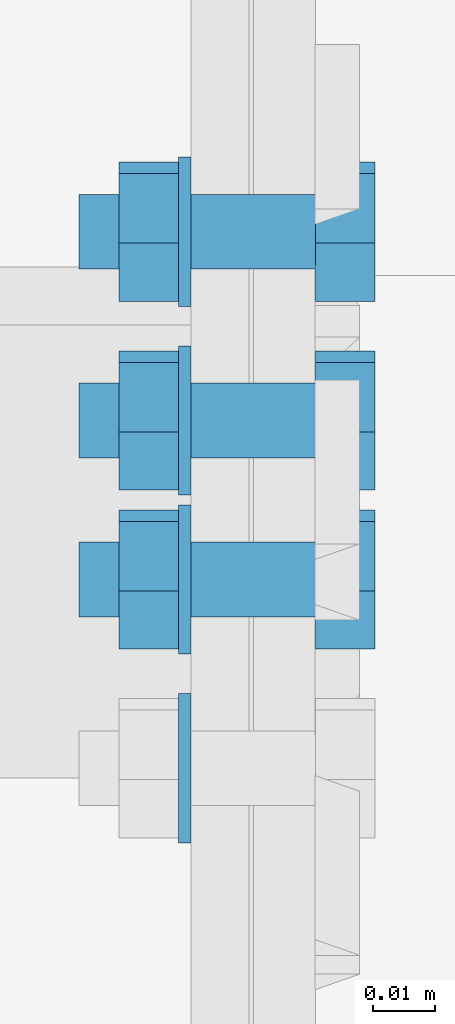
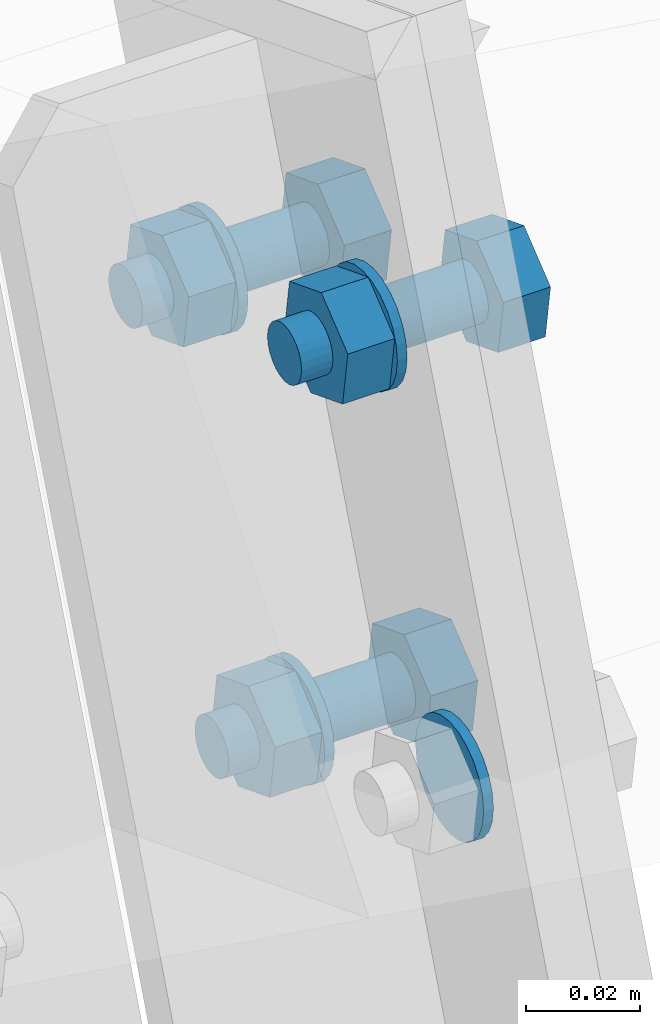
# One storey, part 58 of 72: 13 mechanical fasteners.
"""IFC4 building model written with IfcOpenShell, lengths in metres."""

from ifc_helpers import new_model, si_unit, frame, origin_with_axes, place, context, project, spatial, polyline, outline, extrude, type_object, element, save


model = new_model("IFC4")

# Units and contexts
model_context = context("Model", 3, precision=1e-05, world=origin_with_axes())
ifc_project = project(units=[si_unit("LENGTHUNIT", "METRE"), si_unit("AREAUNIT", "SQUARE_METRE"), si_unit("VOLUMEUNIT", "CUBIC_METRE"), si_unit("MASSUNIT", "GRAM", prefix="KILO"), si_unit("TIMEUNIT", "SECOND"), si_unit("PLANEANGLEUNIT", "RADIAN"), si_unit("SOLIDANGLEUNIT", "STERADIAN"), si_unit("THERMODYNAMICTEMPERATUREUNIT", "DEGREE_CELSIUS")], contexts=[model_context])

# Site, building, storey
placement_1 = place(None, origin_with_axes())
site = spatial("IfcSite", under=ifc_project, at=placement_1, Name="Italia", CompositionType="ELEMENT")
building = spatial("IfcBuilding", under=site, at=placement_1, Name="Uffici", CompositionType="ELEMENT")
storey = spatial("IfcBuildingStorey", under=building, at=placement_1, Name="Storey 0", CompositionType="ELEMENT", Elevation=0.0)

# Mechanical fasteners
mechanical_fastener_type_1 = type_object("IfcMechanicalFastenerType", Name="Collegamento -019_-020", PredefinedType="BOLT")
placement_2 = place(placement_1, origin_with_axes())
mechanical_fastener_1_placement = place(placement_2, origin_with_axes())
element("IfcMechanicalFastener", 1, at=mechanical_fastener_1_placement, inside=storey, type_object=mechanical_fastener_type_1, Name="Collegamento -019_-020", NominalDiameter=0.024, context=model_context, shape_type="SweptSolid", body=[
    extrude(outline(polyline([(0.0, 0.0), (-0.000408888, -0.00310564), (-0.00160789, -0.00600004), (-0.00351477, -0.00848532), (-0.00600004, -0.0103922), (-0.00889421, -0.011591), (-0.0120001, -0.0120001), (-0.015106, -0.011591), (-0.0180001, -0.0103922), (-0.0204854, -0.00848532), (-0.0223923, -0.00600004), (-0.0235913, -0.00310564), (-0.0240002, 0.0), (-0.0235913, 0.00310564), (-0.0223923, 0.00600004), (-0.0204854, 0.00848532), (-0.0180001, 0.0103922), (-0.015106, 0.011591), (-0.0120001, 0.0120001), (-0.00889421, 0.011591), (-0.00600004, 0.0103922), (-0.00351477, 0.00848532), (-0.00160789, 0.00600004), (-0.000408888, 0.00310564), (0.0, 0.0)])), frame((9.508, 3.19937, 5.85178), z_axis=(1.0, 0.0, 0.0), x_axis=(0.0, 1.0, 0.0)), (0.0, 0.0, 1.0), 0.00199986),
])
mechanical_fastener_type_2 = type_object("IfcMechanicalFastenerType", Name="Collegamento -019_-020", PredefinedType="BOLT")
mechanical_fastener_2_placement = place(placement_2, origin_with_axes())
element("IfcMechanicalFastener", 2, at=mechanical_fastener_2_placement, inside=storey, type_object=mechanical_fastener_type_2, Name="Collegamento -019_-020", NominalDiameter=0.0119999, context=model_context, shape_type="SweptSolid", body=[
    extrude(outline(polyline([(0.0, 0.0), (-0.0111887, 0.00433731), (-0.0130265, 0.0161958), (-0.00367594, 0.0237169), (0.00751281, 0.0193791), (0.00935078, 0.00752068), (0.0, 0.0)])), frame((9.53, 3.24515, 5.81823), z_axis=(1.0, 0.0, 0.0), x_axis=(0.0, 1.0, 0.0)), (0.0, 0.0, 1.0), 0.00959969),
])
mechanical_fastener_type_3 = type_object("IfcMechanicalFastenerType", Name="Collegamento -019_-020", PredefinedType="BOLT")
mechanical_fastener_3_placement = place(placement_2, origin_with_axes())
element("IfcMechanicalFastener", 3, at=mechanical_fastener_3_placement, inside=storey, type_object=mechanical_fastener_type_3, Name="Collegamento -019_-020", NominalDiameter=0.012, context=model_context, shape_type="SweptSolid", body=[
    extrude(outline(polyline([(0.0, 0.0), (-0.000204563, -0.00155306), (-0.000803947, -0.00299978), (-0.00175738, -0.00424242), (-0.00300002, -0.00519609), (-0.00444722, -0.00579548), (-0.00600004, -0.00600004), (-0.00755286, -0.00579548), (-0.00900006, -0.00519609), (-0.0102427, -0.00424242), (-0.0111961, -0.00299978), (-0.0117955, -0.00155306), (-0.0120001, 0.0), (-0.0117955, 0.00155306), (-0.0111961, 0.00299978), (-0.0102427, 0.00424242), (-0.00900006, 0.00519609), (-0.00755286, 0.00579548), (-0.00600004, 0.00600004), (-0.00444722, 0.00579548), (-0.00300002, 0.00519609), (-0.00175738, 0.00424242), (-0.000803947, 0.00299978), (-0.000204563, 0.00155306), (0.0, 0.0)])), frame((9.492, 3.24931, 5.83009), z_axis=(1.0, 0.0, 0.0), x_axis=(0.0, 1.0, 0.0)), (0.0, 0.0, 1.0), 0.0380001),
])
mechanical_fastener_type_4 = type_object("IfcMechanicalFastenerType", Name="Collegamento -019_-020", PredefinedType="BOLT")
mechanical_fastener_4_placement = place(placement_2, origin_with_axes())
element("IfcMechanicalFastener", 4, at=mechanical_fastener_4_placement, inside=storey, type_object=mechanical_fastener_type_4, Name="Collegamento -019_-020", NominalDiameter=0.0119999, context=model_context, shape_type="SweptSolid", body=[
    extrude(outline(polyline([(0.0, 0.0), (-0.0111887, 0.00433731), (-0.0130265, 0.0161958), (-0.00367594, 0.0237169), (0.00751281, 0.0193791), (0.00935078, 0.00752068), (0.0, 0.0)])), frame((9.4984, 3.24515, 5.81823), z_axis=(1.0, 0.0, 0.0), x_axis=(0.0, 1.0, 0.0)), (0.0, 0.0, 1.0), 0.00959969),
])
mechanical_fastener_type_5 = type_object("IfcMechanicalFastenerType", Name="Collegamento -019_-020", PredefinedType="BOLT")
mechanical_fastener_5_placement = place(placement_2, origin_with_axes())
element("IfcMechanicalFastener", 5, at=mechanical_fastener_5_placement, inside=storey, type_object=mechanical_fastener_type_5, Name="Collegamento -019_-020", NominalDiameter=0.024, context=model_context, shape_type="SweptSolid", body=[
    extrude(outline(polyline([(0.0, 0.0), (-0.000408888, -0.00310564), (-0.00160789, -0.00600004), (-0.00351477, -0.00848532), (-0.00600004, -0.0103922), (-0.00889421, -0.011591), (-0.0120001, -0.0120001), (-0.015106, -0.011591), (-0.0180001, -0.0103922), (-0.0204854, -0.00848532), (-0.0223923, -0.00600004), (-0.0235913, -0.00310564), (-0.0240002, 0.0), (-0.0235913, 0.00310564), (-0.0223923, 0.00600004), (-0.0204854, 0.00848532), (-0.0180001, 0.0103922), (-0.015106, 0.011591), (-0.0120001, 0.0120001), (-0.00889421, 0.011591), (-0.00600004, 0.0103922), (-0.00351477, 0.00848532), (-0.00160789, 0.00600004), (-0.000408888, 0.00310564), (0.0, 0.0)])), frame((9.508, 3.25531, 5.83009), z_axis=(1.0, 0.0, 0.0), x_axis=(0.0, 1.0, 0.0)), (0.0, 0.0, 1.0), 0.00199986),
])
mechanical_fastener_type_6 = type_object("IfcMechanicalFastenerType", Name="Collegamento -019_-020", PredefinedType="BOLT")
mechanical_fastener_6_placement = place(placement_2, origin_with_axes())
element("IfcMechanicalFastener", 6, at=mechanical_fastener_6_placement, inside=storey, type_object=mechanical_fastener_type_6, Name="Collegamento -019_-020", NominalDiameter=0.0119999, context=model_context, shape_type="SweptSolid", body=[
    extrude(outline(polyline([(0.0, 0.0), (-0.0111887, 0.00433779), (-0.0130267, 0.0161963), (-0.00367594, 0.0237169), (0.00751281, 0.0193796), (0.00935054, 0.00752115), (0.0, 0.0)])), frame((9.53, 3.21957, 5.91824), z_axis=(1.0, 0.0, 0.0), x_axis=(0.0, 1.0, 0.0)), (0.0, 0.0, 1.0), 0.00959969),
])
mechanical_fastener_type_7 = type_object("IfcMechanicalFastenerType", Name="Collegamento -019_-020", PredefinedType="BOLT")
mechanical_fastener_7_placement = place(placement_2, origin_with_axes())
element("IfcMechanicalFastener", 7, at=mechanical_fastener_7_placement, inside=storey, type_object=mechanical_fastener_type_7, Name="Collegamento -019_-020", NominalDiameter=0.012, context=model_context, shape_type="SweptSolid", body=[
    extrude(outline(polyline([(0.0, 0.0), (-0.000204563, -0.00155306), (-0.000803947, -0.00299978), (-0.00175738, -0.00424242), (-0.00300002, -0.00519609), (-0.00444722, -0.00579548), (-0.00600004, -0.00600004), (-0.00755286, -0.00579548), (-0.00900006, -0.00519609), (-0.0102427, -0.00424242), (-0.0111961, -0.00299978), (-0.0117955, -0.00155306), (-0.0120001, 0.0), (-0.0117955, 0.00155306), (-0.0111961, 0.00299978), (-0.0102427, 0.00424242), (-0.00900006, 0.00519609), (-0.00755286, 0.00579548), (-0.00600004, 0.00600004), (-0.00444722, 0.00579548), (-0.00300002, 0.00519609), (-0.00175738, 0.00424242), (-0.000803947, 0.00299978), (-0.000204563, 0.00155306), (0.0, 0.0)])), frame((9.492, 3.22373, 5.9301), z_axis=(1.0, 0.0, 0.0), x_axis=(0.0, 1.0, 0.0)), (0.0, 0.0, 1.0), 0.0380001),
])
mechanical_fastener_type_8 = type_object("IfcMechanicalFastenerType", Name="Collegamento -019_-020", PredefinedType="BOLT")
mechanical_fastener_8_placement = place(placement_2, origin_with_axes())
element("IfcMechanicalFastener", 8, at=mechanical_fastener_8_placement, inside=storey, type_object=mechanical_fastener_type_8, Name="Collegamento -019_-020", NominalDiameter=0.0119999, context=model_context, shape_type="SweptSolid", body=[
    extrude(outline(polyline([(0.0, 0.0), (-0.0111887, 0.00433779), (-0.0130267, 0.0161963), (-0.00367594, 0.0237169), (0.00751281, 0.0193796), (0.00935054, 0.00752115), (0.0, 0.0)])), frame((9.4984, 3.21957, 5.91824), z_axis=(1.0, 0.0, 0.0), x_axis=(0.0, 1.0, 0.0)), (0.0, 0.0, 1.0), 0.00959969),
])
mechanical_fastener_type_9 = type_object("IfcMechanicalFastenerType", Name="Collegamento -019_-020", PredefinedType="BOLT")
mechanical_fastener_9_placement = place(placement_2, origin_with_axes())
element("IfcMechanicalFastener", 9, at=mechanical_fastener_9_placement, inside=storey, type_object=mechanical_fastener_type_9, Name="Collegamento -019_-020", NominalDiameter=0.024, context=model_context, shape_type="SweptSolid", body=[
    extrude(outline(polyline([(0.0, 0.0), (-0.000408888, -0.00310564), (-0.00160789, -0.00600004), (-0.00351477, -0.00848532), (-0.00600004, -0.0103922), (-0.00889421, -0.011591), (-0.0120001, -0.0120001), (-0.015106, -0.011591), (-0.0180001, -0.0103922), (-0.0204854, -0.00848532), (-0.0223923, -0.00600004), (-0.0235913, -0.00310564), (-0.0240002, 0.0), (-0.0235913, 0.00310564), (-0.0223923, 0.00600004), (-0.0204854, 0.00848532), (-0.0180001, 0.0103922), (-0.015106, 0.011591), (-0.0120001, 0.0120001), (-0.00889421, 0.011591), (-0.00600004, 0.0103922), (-0.00351477, 0.00848532), (-0.00160789, 0.00600004), (-0.000408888, 0.00310564), (0.0, 0.0)])), frame((9.508, 3.22973, 5.9301), z_axis=(1.0, 0.0, 0.0), x_axis=(0.0, 1.0, 0.0)), (0.0, 0.0, 1.0), 0.00199986),
])
mechanical_fastener_type_10 = type_object("IfcMechanicalFastenerType", Name="Collegamento -019_-020", PredefinedType="BOLT")
mechanical_fastener_10_placement = place(placement_2, origin_with_axes())
element("IfcMechanicalFastener", 10, at=mechanical_fastener_10_placement, inside=storey, type_object=mechanical_fastener_type_10, Name="Collegamento -019_-020", NominalDiameter=0.0119997, context=model_context, shape_type="SweptSolid", body=[
    extrude(outline(polyline([(0.0, 0.0), (-0.0111887, 0.00433731), (-0.0130267, 0.0161958), (-0.00367594, 0.0237169), (0.00751281, 0.0193791), (0.00935054, 0.00752068), (0.0, 0.0)])), frame((9.53, 3.27551, 5.89655), z_axis=(1.0, 0.0, 0.0), x_axis=(0.0, 1.0, 0.0)), (0.0, 0.0, 1.0), 0.00959969),
])
mechanical_fastener_type_11 = type_object("IfcMechanicalFastenerType", Name="Collegamento -019_-020", PredefinedType="BOLT")
mechanical_fastener_11_placement = place(placement_2, origin_with_axes())
element("IfcMechanicalFastener", 11, at=mechanical_fastener_11_placement, inside=storey, type_object=mechanical_fastener_type_11, Name="Collegamento -019_-020", NominalDiameter=0.012, context=model_context, shape_type="SweptSolid", body=[
    extrude(outline(polyline([(0.0, 0.0), (-0.000204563, -0.00155306), (-0.000803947, -0.00299978), (-0.00175738, -0.00424242), (-0.00300002, -0.00519609), (-0.00444722, -0.00579548), (-0.00600004, -0.00600004), (-0.00755286, -0.00579548), (-0.00900006, -0.00519609), (-0.0102427, -0.00424242), (-0.0111961, -0.00299978), (-0.0117955, -0.00155306), (-0.0120001, 0.0), (-0.0117955, 0.00155306), (-0.0111961, 0.00299978), (-0.0102427, 0.00424242), (-0.00900006, 0.00519609), (-0.00755286, 0.00579548), (-0.00600004, 0.00600004), (-0.00444722, 0.00579548), (-0.00300002, 0.00519609), (-0.00175738, 0.00424242), (-0.000803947, 0.00299978), (-0.000204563, 0.00155306), (0.0, 0.0)])), frame((9.492, 3.27967, 5.90841), z_axis=(1.0, 0.0, 0.0), x_axis=(0.0, 1.0, 0.0)), (0.0, 0.0, 1.0), 0.0380001),
])
mechanical_fastener_type_12 = type_object("IfcMechanicalFastenerType", Name="Collegamento -019_-020", PredefinedType="BOLT")
mechanical_fastener_12_placement = place(placement_2, origin_with_axes())
element("IfcMechanicalFastener", 12, at=mechanical_fastener_12_placement, inside=storey, type_object=mechanical_fastener_type_12, Name="Collegamento -019_-020", NominalDiameter=0.0119997, context=model_context, shape_type="SweptSolid", body=[
    extrude(outline(polyline([(0.0, 0.0), (-0.0111887, 0.00433731), (-0.0130267, 0.0161958), (-0.00367594, 0.0237169), (0.00751281, 0.0193791), (0.00935054, 0.00752068), (0.0, 0.0)])), frame((9.4984, 3.27551, 5.89655), z_axis=(1.0, 0.0, 0.0), x_axis=(0.0, 1.0, 0.0)), (0.0, 0.0, 1.0), 0.00959969),
])
mechanical_fastener_type_13 = type_object("IfcMechanicalFastenerType", Name="Collegamento -019_-020", PredefinedType="BOLT")
mechanical_fastener_13_placement = place(placement_2, origin_with_axes())
element("IfcMechanicalFastener", 13, at=mechanical_fastener_13_placement, inside=storey, type_object=mechanical_fastener_type_13, Name="Collegamento -019_-020", NominalDiameter=0.024, context=model_context, shape_type="SweptSolid", body=[
    extrude(outline(polyline([(0.0, 0.0), (-0.000408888, -0.00310564), (-0.00160789, -0.00600004), (-0.00351477, -0.00848532), (-0.00600004, -0.0103922), (-0.00889421, -0.011591), (-0.0120001, -0.0120001), (-0.015106, -0.011591), (-0.0180001, -0.0103922), (-0.0204854, -0.00848532), (-0.0223923, -0.00600004), (-0.0235913, -0.00310564), (-0.0240002, 0.0), (-0.0235913, 0.00310564), (-0.0223923, 0.00600004), (-0.0204854, 0.00848532), (-0.0180001, 0.0103922), (-0.015106, 0.011591), (-0.0120001, 0.0120001), (-0.00889421, 0.011591), (-0.00600004, 0.0103922), (-0.00351477, 0.00848532), (-0.00160789, 0.00600004), (-0.000408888, 0.00310564), (0.0, 0.0)])), frame((9.508, 3.28567, 5.90841), z_axis=(1.0, 0.0, 0.0), x_axis=(0.0, 1.0, 0.0)), (0.0, 0.0, 1.0), 0.00199986),
])

save(model, "model.ifc")
